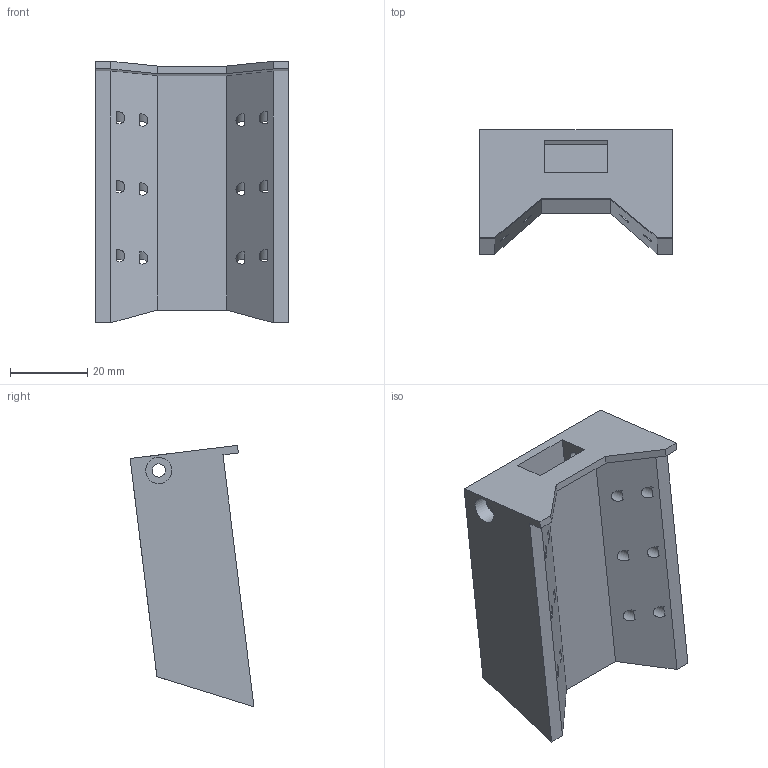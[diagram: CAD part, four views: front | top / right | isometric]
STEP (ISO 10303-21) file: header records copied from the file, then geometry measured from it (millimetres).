
FILE_DESCRIPTION(('Open CASCADE Model'),'2;1');
FILE_NAME('Open CASCADE Shape Model','2026-10-16T05:25:09',('Author'),( 'Open CASCADE'),'Open CASCADE STEP processor 7.9','Open CASCADE 7.9' ,'Unknown');
FILE_SCHEMA(('AUTOMOTIVE_DESIGN { 1 0 10303 214 1 1 1 1 }'));
Length unit declared in the file: millimetre
Products named in the file (1): Open CASCADE STEP translator 7.9 32
Bounding box: 50 x 32.08 x 67.73 mm (x, y, z)
Volume: 51406.2 mm3; surface area: 15041.7 mm2
Topology: 1 solids, 1 shells, 81 faces, 186 edges, 116 vertices
Faces by surface type: plane 47, cylinder 34
Full cylindrical faces by diameter (mm): 3.2 x12, 3.4 x2, 6 x6, 6.8 x2
Entity records: 5141 total; most frequent: CARTESIAN_POINT 1290, DIRECTION 739, ORIENTED_EDGE 384, PCURVE 372, DEFINITIONAL_REPRESENTATION 372, LINE 356, VECTOR 356, EDGE_CURVE 186
